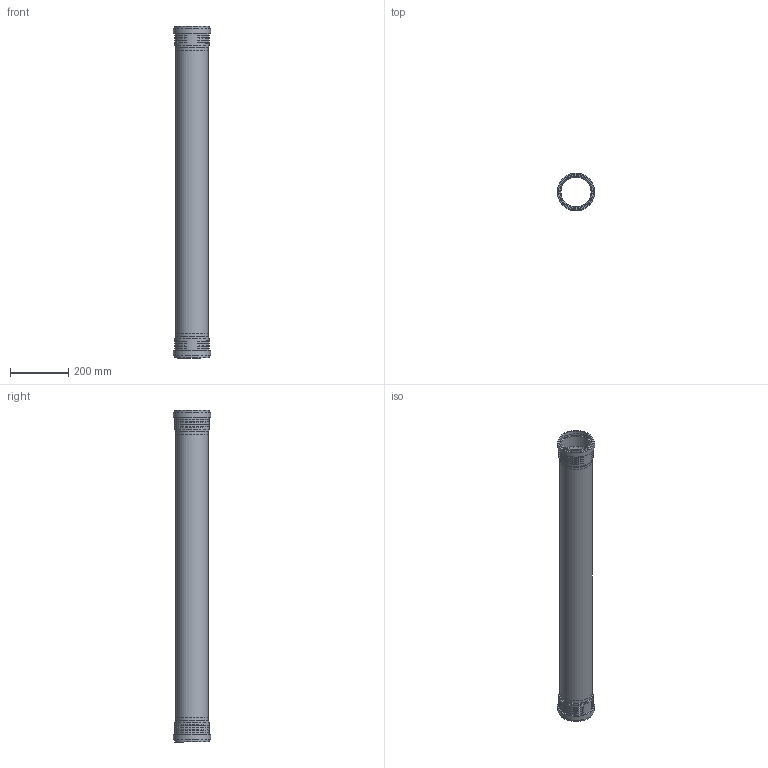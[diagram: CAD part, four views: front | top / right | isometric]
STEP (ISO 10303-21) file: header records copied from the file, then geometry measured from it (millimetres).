
FILE_DESCRIPTION(/* description */ (''),/* implementation_level */ '2;1');
FILE_NAME(/* name */ 'Z:\Geberit\Export\NewStep\Rohr2Muffen_Iassembly\stp\390511.stp',/* time_stamp */ '2014-04-03T17:50:47+02:00',/* author */ ('ML'),/* organization */ (''),/* preprocessor_version */ 'ST-DEVELOPER v15.2',/* originating_system */ 'Autodesk Inventor 2014',/* authorisation */ '');
FILE_SCHEMA (('AUTOMOTIVE_DESIGN { 1 0 10303 214 3 1 1 }'));
Length unit declared in the file: millimetre
Products named in the file (3): 861551; 861585ohne; 390511
Bounding box: 127.4 x 127.4 x 1136.2 mm (x, y, z)
Volume: 1444097.1 mm3; surface area: 811618.3 mm2
Topology: 3 solids, 3 shells, 88 faces, 198 edges, 136 vertices
Faces by surface type: torus 48, cylinder 20, plane 18, cone 2
Full cylindrical faces by diameter (mm): 103 x3, 110.2 x3, 111.1 x4, 114.7 x2, 118.3 x4, 120.2 x2, 127.4 x2
Entity records: 1990 total; most frequent: CARTESIAN_POINT 960, DIRECTION 180, ORIENTED_EDGE 172, AXIS2_PLACEMENT_3D 90, EDGE_CURVE 86, EDGE_LOOP 76, VERTEX_POINT 70, B_SPLINE_CURVE_WITH_KNOTS 48
